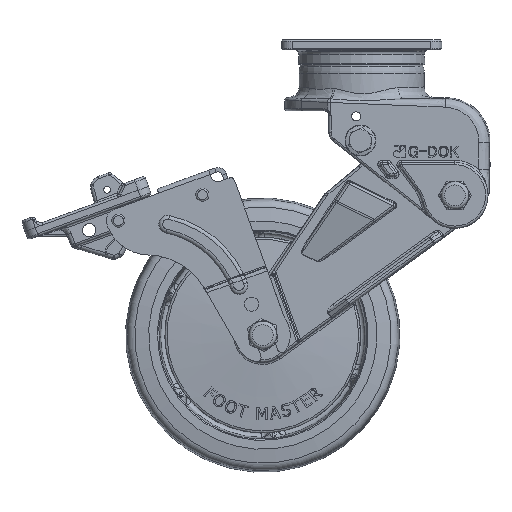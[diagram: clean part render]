
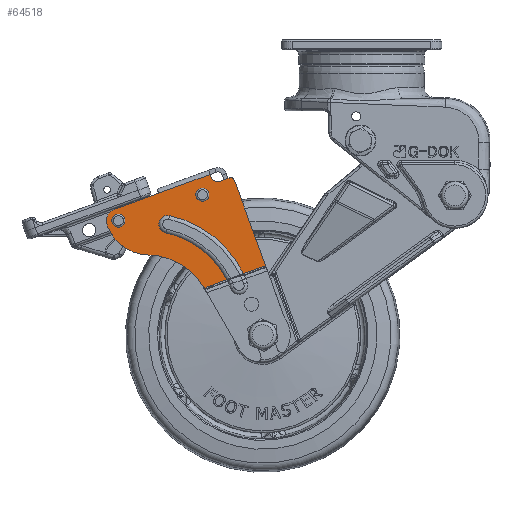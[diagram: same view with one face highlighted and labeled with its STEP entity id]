
A CAD part, front view. The second image highlights one B-rep face of the part: STEP entity #64518.
In plain terms, the highlighted planar face has unit normal (0, -1, 0).
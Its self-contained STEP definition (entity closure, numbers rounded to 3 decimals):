
#5781=CIRCLE('',#69623,2.25);
#5792=CIRCLE('',#69638,41.);
#5793=CIRCLE('',#69639,4.);
#5794=CIRCLE('',#69640,49.);
#5795=CIRCLE('',#69641,49.);
#5796=CIRCLE('',#69642,2.);
#5797=CIRCLE('',#69643,3.);
#5798=CIRCLE('',#69644,5.5);
#5799=CIRCLE('',#69645,20.);
#5800=CIRCLE('',#69646,30.);
#5801=CIRCLE('',#69647,2.25);
#7458=FACE_BOUND('',#12864,.T.);
#7459=FACE_BOUND('',#12865,.T.);
#8995=FACE_OUTER_BOUND('',#12863,.T.);
#12863=EDGE_LOOP('',(#46042,#46043,#46044,#46045,#46046,#46047,#46048,#46049,
#46050,#46051,#46052,#46053,#46054,#46055,#46056,#46057,#46058,#46059));
#12864=EDGE_LOOP('',(#46060));
#12865=EDGE_LOOP('',(#46061));
#16736=LINE('',#115885,#20602);
#16737=LINE('',#115887,#20603);
#16738=LINE('',#115891,#20604);
#16739=LINE('',#115895,#20605);
#16740=LINE('',#115897,#20606);
#16741=LINE('',#115899,#20607);
#16742=LINE('',#115903,#20608);
#16743=LINE('',#115909,#20609);
#16744=LINE('',#115910,#20610);
#20602=VECTOR('',#79795,10.);
#20603=VECTOR('',#79796,10.);
#20604=VECTOR('',#79799,10.);
#20605=VECTOR('',#79802,10.);
#20606=VECTOR('',#79803,10.);
#20607=VECTOR('',#79804,10.);
#20608=VECTOR('',#79807,10.);
#20609=VECTOR('',#79812,10.);
#20610=VECTOR('',#79813,10.);
#26052=VERTEX_POINT('',#115830);
#26072=VERTEX_POINT('',#115875);
#26073=VERTEX_POINT('',#115876);
#26074=VERTEX_POINT('',#115878);
#26075=VERTEX_POINT('',#115880);
#26076=VERTEX_POINT('',#115882);
#26077=VERTEX_POINT('',#115884);
#26078=VERTEX_POINT('',#115886);
#26079=VERTEX_POINT('',#115888);
#26080=VERTEX_POINT('',#115890);
#26081=VERTEX_POINT('',#115892);
#26082=VERTEX_POINT('',#115894);
#26083=VERTEX_POINT('',#115896);
#26084=VERTEX_POINT('',#115898);
#26085=VERTEX_POINT('',#115900);
#26086=VERTEX_POINT('',#115902);
#26087=VERTEX_POINT('',#115904);
#26088=VERTEX_POINT('',#115906);
#26089=VERTEX_POINT('',#115908);
#26090=VERTEX_POINT('',#115911);
#33161=EDGE_CURVE('',#26052,#26052,#5781,.T.);
#33181=EDGE_CURVE('',#26072,#26073,#5792,.T.);
#33182=EDGE_CURVE('',#26073,#26074,#5793,.T.);
#33183=EDGE_CURVE('',#26074,#26075,#5794,.T.);
#33184=EDGE_CURVE('',#26075,#26076,#5795,.T.);
#33185=EDGE_CURVE('',#26077,#26076,#16736,.T.);
#33186=EDGE_CURVE('',#26077,#26078,#16737,.T.);
#33187=EDGE_CURVE('',#26078,#26079,#5796,.T.);
#33188=EDGE_CURVE('',#26079,#26080,#16738,.T.);
#33189=EDGE_CURVE('',#26080,#26081,#5797,.T.);
#33190=EDGE_CURVE('',#26081,#26082,#16739,.T.);
#33191=EDGE_CURVE('',#26083,#26082,#16740,.T.);
#33192=EDGE_CURVE('',#26083,#26084,#16741,.T.);
#33193=EDGE_CURVE('',#26084,#26085,#5798,.T.);
#33194=EDGE_CURVE('',#26085,#26086,#16742,.T.);
#33195=EDGE_CURVE('',#26086,#26087,#5799,.T.);
#33196=EDGE_CURVE('',#26087,#26088,#5800,.T.);
#33197=EDGE_CURVE('',#26088,#26089,#16743,.T.);
#33198=EDGE_CURVE('',#26072,#26089,#16744,.T.);
#33199=EDGE_CURVE('',#26090,#26090,#5801,.T.);
#46042=ORIENTED_EDGE('',*,*,#33181,.T.);
#46043=ORIENTED_EDGE('',*,*,#33182,.T.);
#46044=ORIENTED_EDGE('',*,*,#33183,.T.);
#46045=ORIENTED_EDGE('',*,*,#33184,.T.);
#46046=ORIENTED_EDGE('',*,*,#33185,.F.);
#46047=ORIENTED_EDGE('',*,*,#33186,.T.);
#46048=ORIENTED_EDGE('',*,*,#33187,.T.);
#46049=ORIENTED_EDGE('',*,*,#33188,.T.);
#46050=ORIENTED_EDGE('',*,*,#33189,.T.);
#46051=ORIENTED_EDGE('',*,*,#33190,.T.);
#46052=ORIENTED_EDGE('',*,*,#33191,.F.);
#46053=ORIENTED_EDGE('',*,*,#33192,.T.);
#46054=ORIENTED_EDGE('',*,*,#33193,.T.);
#46055=ORIENTED_EDGE('',*,*,#33194,.T.);
#46056=ORIENTED_EDGE('',*,*,#33195,.T.);
#46057=ORIENTED_EDGE('',*,*,#33196,.T.);
#46058=ORIENTED_EDGE('',*,*,#33197,.T.);
#46059=ORIENTED_EDGE('',*,*,#33198,.F.);
#46060=ORIENTED_EDGE('',*,*,#33199,.F.);
#46061=ORIENTED_EDGE('',*,*,#33161,.F.);
#58467=PLANE('',#69637);
#64518=ADVANCED_FACE('',(#8995,#7458,#7459),#58467,.F.);
#69623=AXIS2_PLACEMENT_3D('',#115832,#79748,#79749);
#69637=AXIS2_PLACEMENT_3D('',#115874,#79785,#79786);
#69638=AXIS2_PLACEMENT_3D('',#115877,#79787,#79788);
#69639=AXIS2_PLACEMENT_3D('',#115879,#79789,#79790);
#69640=AXIS2_PLACEMENT_3D('',#115881,#79791,#79792);
#69641=AXIS2_PLACEMENT_3D('',#115883,#79793,#79794);
#69642=AXIS2_PLACEMENT_3D('',#115889,#79797,#79798);
#69643=AXIS2_PLACEMENT_3D('',#115893,#79800,#79801);
#69644=AXIS2_PLACEMENT_3D('',#115901,#79805,#79806);
#69645=AXIS2_PLACEMENT_3D('',#115905,#79808,#79809);
#69646=AXIS2_PLACEMENT_3D('',#115907,#79810,#79811);
#69647=AXIS2_PLACEMENT_3D('',#115912,#79814,#79815);
#79748=DIRECTION('center_axis',(0.,-1.,0.));
#79749=DIRECTION('ref_axis',(0.,0.,-1.));
#79785=DIRECTION('center_axis',(0.,1.,0.));
#79786=DIRECTION('ref_axis',(0.94,0.,0.342));
#79787=DIRECTION('center_axis',(0.,-1.,0.));
#79788=DIRECTION('ref_axis',(-0.934,0.,-0.356));
#79789=DIRECTION('center_axis',(0.,1.,0.));
#79790=DIRECTION('ref_axis',(0.211,0.,0.977));
#79791=DIRECTION('center_axis',(0.,1.,0.));
#79792=DIRECTION('ref_axis',(0.934,0.,0.356));
#79793=DIRECTION('center_axis',(0.,1.,0.));
#79794=DIRECTION('ref_axis',(0.934,0.,0.356));
#79795=DIRECTION('',(-0.94,0.,-0.342));
#79796=DIRECTION('',(-0.342,0.,0.94));
#79797=DIRECTION('center_axis',(0.,-1.,0.));
#79798=DIRECTION('ref_axis',(0.94,0.,0.342));
#79799=DIRECTION('',(-0.94,0.,-0.342));
#79800=DIRECTION('center_axis',(0.,1.,0.));
#79801=DIRECTION('ref_axis',(0.94,0.,0.342));
#79802=DIRECTION('',(-0.342,0.,0.94));
#79803=DIRECTION('',(0.94,0.,0.342));
#79804=DIRECTION('',(-0.94,0.,-0.342));
#79805=DIRECTION('center_axis',(0.,-1.,0.));
#79806=DIRECTION('ref_axis',(-0.342,0.,0.94));
#79807=DIRECTION('',(0.342,0.,-0.94));
#79808=DIRECTION('center_axis',(0.,-1.,0.));
#79809=DIRECTION('ref_axis',(-0.94,0.,-0.342));
#79810=DIRECTION('center_axis',(0.,1.,0.));
#79811=DIRECTION('ref_axis',(-0.866,0.,-0.5));
#79812=DIRECTION('',(0.5,0.,-0.866));
#79813=DIRECTION('',(-0.94,0.,-0.342));
#79814=DIRECTION('center_axis',(0.,-1.,0.));
#79815=DIRECTION('ref_axis',(0.,0.,-1.));
#115830=CARTESIAN_POINT('',(-110.031,-25.8,-84.431));
#115832=CARTESIAN_POINT('Origin',(-110.801,-25.8,-82.317));
#115874=CARTESIAN_POINT('Origin',(-86.254,-25.8,-40.117));
#115875=CARTESIAN_POINT('',(-61.367,-25.8,-109.21));
#115876=CARTESIAN_POINT('',(-89.196,-25.8,-87.831));
#115877=CARTESIAN_POINT('Origin',(-97.857,-25.8,-127.905));
#115878=CARTESIAN_POINT('',(-87.506,-25.8,-80.011));
#115879=CARTESIAN_POINT('Origin',(-88.351,-25.8,-83.921));
#115880=CARTESIAN_POINT('',(-53.883,-25.8,-106.288));
#115881=CARTESIAN_POINT('Origin',(-97.857,-25.8,-127.905));
#115882=CARTESIAN_POINT('',(-53.801,-25.8,-106.456));
#115883=CARTESIAN_POINT('Origin',(-97.857,-25.8,-127.905));
#115884=CARTESIAN_POINT('',(-43.752,-25.8,-102.799));
#115885=CARTESIAN_POINT('',(-58.083,-25.8,-108.015));
#115886=CARTESIAN_POINT('',(-57.836,-25.8,-64.104));
#115887=CARTESIAN_POINT('',(-35.337,-25.8,-125.919));
#115888=CARTESIAN_POINT('',(-60.399,-25.8,-62.908));
#115889=CARTESIAN_POINT('Origin',(-59.715,-25.8,-64.788));
#115890=CARTESIAN_POINT('',(-64.628,-25.8,-64.447));
#115891=CARTESIAN_POINT('',(-60.399,-25.8,-62.908));
#115892=CARTESIAN_POINT('',(-68.473,-25.8,-62.654));
#115893=CARTESIAN_POINT('Origin',(-65.654,-25.8,-61.628));
#115894=CARTESIAN_POINT('',(-68.986,-25.8,-61.245));
#115895=CARTESIAN_POINT('',(-68.473,-25.8,-62.654));
#115896=CARTESIAN_POINT('',(-92.479,-25.8,-69.795));
#115897=CARTESIAN_POINT('',(-83.082,-25.8,-66.375));
#115898=CARTESIAN_POINT('',(-112.682,-25.8,-77.149));
#115899=CARTESIAN_POINT('',(-68.986,-25.8,-61.245));
#115900=CARTESIAN_POINT('',(-115.969,-25.8,-84.198));
#115901=CARTESIAN_POINT('Origin',(-110.801,-25.8,-82.317));
#115902=CARTESIAN_POINT('',(-115.767,-25.8,-84.754));
#115903=CARTESIAN_POINT('',(-115.969,-25.8,-84.198));
#115904=CARTESIAN_POINT('',(-97.327,-25.8,-97.91));
#115905=CARTESIAN_POINT('Origin',(-96.973,-25.8,-77.913));
#115906=CARTESIAN_POINT('',(-71.876,-25.8,-112.905));
#115907=CARTESIAN_POINT('Origin',(-97.857,-25.8,-127.905));
#115908=CARTESIAN_POINT('',(-71.814,-25.8,-113.012));
#115909=CARTESIAN_POINT('',(-71.876,-25.8,-112.905));
#115910=CARTESIAN_POINT('',(-58.083,-25.8,-108.015));
#115911=CARTESIAN_POINT('',(-71.755,-25.8,-72.642));
#115912=CARTESIAN_POINT('Origin',(-72.525,-25.8,-70.528));
